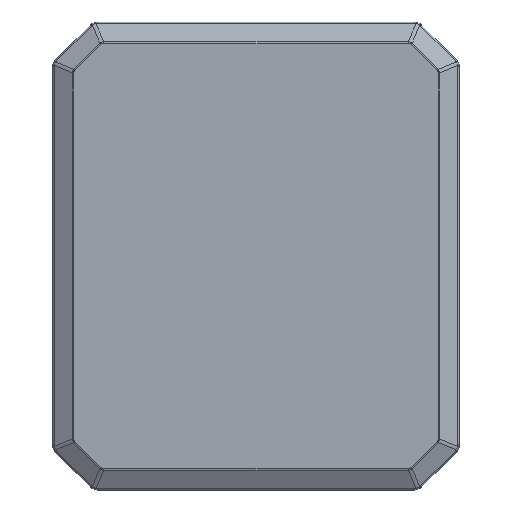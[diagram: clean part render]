
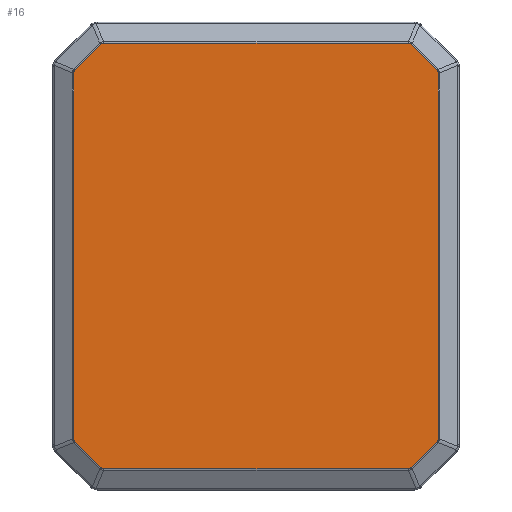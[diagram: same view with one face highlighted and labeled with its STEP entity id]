
A CAD part, top view. The second image highlights one B-rep face of the part: STEP entity #16.
In plain terms, the highlighted planar face has unit normal (0, 0, 1).
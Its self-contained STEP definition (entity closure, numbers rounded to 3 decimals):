
#16=ADVANCED_FACE('',(#176),#2308,.T.);
#176=FACE_OUTER_BOUND('',#336,.T.);
#336=EDGE_LOOP('',(#510,#511,#512,#513,#514,#515,#516,#517,#518,#519,#520,
#521,#522,#523,#524,#525));
#510=ORIENTED_EDGE('',*,*,#1277,.T.);
#511=ORIENTED_EDGE('',*,*,#1272,.F.);
#512=ORIENTED_EDGE('',*,*,#1275,.T.);
#513=ORIENTED_EDGE('',*,*,#1252,.F.);
#514=ORIENTED_EDGE('',*,*,#1310,.T.);
#515=ORIENTED_EDGE('',*,*,#1303,.F.);
#516=ORIENTED_EDGE('',*,*,#1307,.T.);
#517=ORIENTED_EDGE('',*,*,#1251,.F.);
#518=ORIENTED_EDGE('',*,*,#1298,.T.);
#519=ORIENTED_EDGE('',*,*,#1293,.F.);
#520=ORIENTED_EDGE('',*,*,#1296,.T.);
#521=ORIENTED_EDGE('',*,*,#1253,.F.);
#522=ORIENTED_EDGE('',*,*,#1288,.T.);
#523=ORIENTED_EDGE('',*,*,#1282,.F.);
#524=ORIENTED_EDGE('',*,*,#1286,.T.);
#525=ORIENTED_EDGE('',*,*,#1250,.F.);
#1250=EDGE_CURVE('',#2006,#2007,#1942,.T.);
#1251=EDGE_CURVE('',#2013,#2016,#1943,.T.);
#1252=EDGE_CURVE('',#2021,#2019,#1944,.T.);
#1253=EDGE_CURVE('',#2020,#2011,#1945,.T.);
#1272=EDGE_CURVE('',#2014,#2015,#1646,.T.);
#1275=EDGE_CURVE('',#2014,#2019,#1649,.T.);
#1277=EDGE_CURVE('',#2006,#2015,#1651,.T.);
#1282=EDGE_CURVE('',#2008,#2009,#1656,.T.);
#1286=EDGE_CURVE('',#2008,#2007,#1660,.T.);
#1288=EDGE_CURVE('',#2020,#2009,#1662,.T.);
#1293=EDGE_CURVE('',#2010,#2012,#1667,.T.);
#1296=EDGE_CURVE('',#2010,#2011,#1670,.T.);
#1298=EDGE_CURVE('',#2013,#2012,#1672,.T.);
#1303=EDGE_CURVE('',#2017,#2018,#1677,.T.);
#1307=EDGE_CURVE('',#2017,#2016,#1681,.T.);
#1310=EDGE_CURVE('',#2021,#2018,#1684,.T.);
#1646=(
BOUNDED_CURVE()
B_SPLINE_CURVE(1,(#3893,#3894),.UNSPECIFIED.,.F.,.F.)
B_SPLINE_CURVE_WITH_KNOTS((2,2),(-0.03,3.603),
 .UNSPECIFIED.)
CURVE()
GEOMETRIC_REPRESENTATION_ITEM()
RATIONAL_B_SPLINE_CURVE((1.,1.))
REPRESENTATION_ITEM('')
);
#1649=(
BOUNDED_CURVE()
B_SPLINE_CURVE(3,(#3900,#3901,#3902,#3903),.UNSPECIFIED.,.F.,.F.)
B_SPLINE_CURVE_WITH_KNOTS((4,4),(0.03,0.313),
 .UNSPECIFIED.)
CURVE()
GEOMETRIC_REPRESENTATION_ITEM()
RATIONAL_B_SPLINE_CURVE((1.,1.,1.,1.))
REPRESENTATION_ITEM('')
);
#1651=(
BOUNDED_CURVE()
B_SPLINE_CURVE(3,(#3908,#3909,#3910,#3911),.UNSPECIFIED.,.F.,.F.)
B_SPLINE_CURVE_WITH_KNOTS((4,4),(0.03,0.313),
 .UNSPECIFIED.)
CURVE()
GEOMETRIC_REPRESENTATION_ITEM()
RATIONAL_B_SPLINE_CURVE((1.,1.,1.,1.))
REPRESENTATION_ITEM('')
);
#1656=(
BOUNDED_CURVE()
B_SPLINE_CURVE(1,(#3924,#3925),.UNSPECIFIED.,.F.,.F.)
B_SPLINE_CURVE_WITH_KNOTS((2,2),(-0.03,3.603),
 .UNSPECIFIED.)
CURVE()
GEOMETRIC_REPRESENTATION_ITEM()
RATIONAL_B_SPLINE_CURVE((1.,1.))
REPRESENTATION_ITEM('')
);
#1660=(
BOUNDED_CURVE()
B_SPLINE_CURVE(3,(#3934,#3935,#3936,#3937),.UNSPECIFIED.,.F.,.F.)
B_SPLINE_CURVE_WITH_KNOTS((4,4),(0.03,0.313),
 .UNSPECIFIED.)
CURVE()
GEOMETRIC_REPRESENTATION_ITEM()
RATIONAL_B_SPLINE_CURVE((1.,1.,1.,1.))
REPRESENTATION_ITEM('')
);
#1662=(
BOUNDED_CURVE()
B_SPLINE_CURVE(3,(#3942,#3943,#3944,#3945),.UNSPECIFIED.,.F.,.F.)
B_SPLINE_CURVE_WITH_KNOTS((4,4),(0.03,0.313),
 .UNSPECIFIED.)
CURVE()
GEOMETRIC_REPRESENTATION_ITEM()
RATIONAL_B_SPLINE_CURVE((1.,1.,1.,1.))
REPRESENTATION_ITEM('')
);
#1667=(
BOUNDED_CURVE()
B_SPLINE_CURVE(1,(#3958,#3959),.UNSPECIFIED.,.F.,.F.)
B_SPLINE_CURVE_WITH_KNOTS((2,2),(-0.03,3.603),
 .UNSPECIFIED.)
CURVE()
GEOMETRIC_REPRESENTATION_ITEM()
RATIONAL_B_SPLINE_CURVE((1.,1.))
REPRESENTATION_ITEM('')
);
#1670=(
BOUNDED_CURVE()
B_SPLINE_CURVE(3,(#3965,#3966,#3967,#3968),.UNSPECIFIED.,.F.,.F.)
B_SPLINE_CURVE_WITH_KNOTS((4,4),(0.03,0.313),
 .UNSPECIFIED.)
CURVE()
GEOMETRIC_REPRESENTATION_ITEM()
RATIONAL_B_SPLINE_CURVE((1.,1.,1.,1.))
REPRESENTATION_ITEM('')
);
#1672=(
BOUNDED_CURVE()
B_SPLINE_CURVE(3,(#3973,#3974,#3975,#3976),.UNSPECIFIED.,.F.,.F.)
B_SPLINE_CURVE_WITH_KNOTS((4,4),(0.03,0.313),
 .UNSPECIFIED.)
CURVE()
GEOMETRIC_REPRESENTATION_ITEM()
RATIONAL_B_SPLINE_CURVE((1.,1.,1.,1.))
REPRESENTATION_ITEM('')
);
#1677=(
BOUNDED_CURVE()
B_SPLINE_CURVE(1,(#3989,#3990),.UNSPECIFIED.,.F.,.F.)
B_SPLINE_CURVE_WITH_KNOTS((2,2),(-0.03,3.603),
 .UNSPECIFIED.)
CURVE()
GEOMETRIC_REPRESENTATION_ITEM()
RATIONAL_B_SPLINE_CURVE((1.,1.))
REPRESENTATION_ITEM('')
);
#1681=(
BOUNDED_CURVE()
B_SPLINE_CURVE(3,(#3999,#4000,#4001,#4002),.UNSPECIFIED.,.F.,.F.)
B_SPLINE_CURVE_WITH_KNOTS((4,4),(0.03,0.313),
 .UNSPECIFIED.)
CURVE()
GEOMETRIC_REPRESENTATION_ITEM()
RATIONAL_B_SPLINE_CURVE((1.,1.,1.,1.))
REPRESENTATION_ITEM('')
);
#1684=(
BOUNDED_CURVE()
B_SPLINE_CURVE(3,(#4010,#4011,#4012,#4013),.UNSPECIFIED.,.F.,.F.)
B_SPLINE_CURVE_WITH_KNOTS((4,4),(0.03,0.313),
 .UNSPECIFIED.)
CURVE()
GEOMETRIC_REPRESENTATION_ITEM()
RATIONAL_B_SPLINE_CURVE((1.,1.,1.,1.))
REPRESENTATION_ITEM('')
);
#1942=B_SPLINE_CURVE_WITH_KNOTS('',1,(#3846,#3847),.UNSPECIFIED.,.F.,.F.,
(2,2),(-0.03,29.946),.UNSPECIFIED.);
#1943=B_SPLINE_CURVE_WITH_KNOTS('',1,(#3848,#3849),.UNSPECIFIED.,.F.,.F.,
(2,2),(-0.03,29.946),.UNSPECIFIED.);
#1944=B_SPLINE_CURVE_WITH_KNOTS('',1,(#3850,#3851),.UNSPECIFIED.,.F.,.F.,
(2,2),(-0.03,35.946),.UNSPECIFIED.);
#1945=B_SPLINE_CURVE_WITH_KNOTS('',1,(#3852,#3853),.UNSPECIFIED.,.F.,.F.,
(2,2),(-0.03,35.946),.UNSPECIFIED.);
#2006=VERTEX_POINT('',#3626);
#2007=VERTEX_POINT('',#3627);
#2008=VERTEX_POINT('',#3628);
#2009=VERTEX_POINT('',#3629);
#2010=VERTEX_POINT('',#3630);
#2011=VERTEX_POINT('',#3631);
#2012=VERTEX_POINT('',#3632);
#2013=VERTEX_POINT('',#3633);
#2014=VERTEX_POINT('',#3634);
#2015=VERTEX_POINT('',#3635);
#2016=VERTEX_POINT('',#3636);
#2017=VERTEX_POINT('',#3637);
#2018=VERTEX_POINT('',#3638);
#2019=VERTEX_POINT('',#3639);
#2020=VERTEX_POINT('',#3640);
#2021=VERTEX_POINT('',#3641);
#2308=PLANE('',#2476);
#2476=AXIS2_PLACEMENT_3D('',#2638,#2557,$);
#2557=DIRECTION('',(0.,0.,1.));
#2638=CARTESIAN_POINT('',(167.369,-544.196,8.329));
#3626=CARTESIAN_POINT('',(157.357,-536.363,8.329));
#3627=CARTESIAN_POINT('',(127.381,-536.363,8.329));
#3628=CARTESIAN_POINT('',(127.127,-536.258,8.329));
#3629=CARTESIAN_POINT('',(124.558,-533.689,8.329));
#3630=CARTESIAN_POINT('',(124.558,-497.204,8.329));
#3631=CARTESIAN_POINT('',(124.452,-497.459,8.329));
#3632=CARTESIAN_POINT('',(127.127,-494.635,8.329));
#3633=CARTESIAN_POINT('',(127.381,-494.53,8.329));
#3634=CARTESIAN_POINT('',(160.181,-533.689,8.329));
#3635=CARTESIAN_POINT('',(157.612,-536.258,8.329));
#3636=CARTESIAN_POINT('',(157.357,-494.53,8.329));
#3637=CARTESIAN_POINT('',(157.612,-494.635,8.329));
#3638=CARTESIAN_POINT('',(160.181,-497.204,8.329));
#3639=CARTESIAN_POINT('',(160.286,-533.434,8.329));
#3640=CARTESIAN_POINT('',(124.452,-533.434,8.329));
#3641=CARTESIAN_POINT('',(160.286,-497.459,8.329));
#3846=CARTESIAN_POINT('',(157.357,-536.363,8.329));
#3847=CARTESIAN_POINT('',(127.381,-536.363,8.329));
#3848=CARTESIAN_POINT('',(127.381,-494.53,8.329));
#3849=CARTESIAN_POINT('',(157.357,-494.53,8.329));
#3850=CARTESIAN_POINT('',(160.286,-497.459,8.329));
#3851=CARTESIAN_POINT('',(160.286,-533.434,8.329));
#3852=CARTESIAN_POINT('',(124.452,-533.434,8.329));
#3853=CARTESIAN_POINT('',(124.452,-497.459,8.329));
#3893=CARTESIAN_POINT('',(160.181,-533.689,8.329));
#3894=CARTESIAN_POINT('',(157.612,-536.258,8.329));
#3900=CARTESIAN_POINT('',(160.181,-533.689,8.329));
#3901=CARTESIAN_POINT('',(160.249,-533.623,8.329));
#3902=CARTESIAN_POINT('',(160.288,-533.529,8.329));
#3903=CARTESIAN_POINT('',(160.286,-533.434,8.329));
#3908=CARTESIAN_POINT('',(157.357,-536.363,8.329));
#3909=CARTESIAN_POINT('',(157.452,-536.365,8.329));
#3910=CARTESIAN_POINT('',(157.546,-536.326,8.329));
#3911=CARTESIAN_POINT('',(157.612,-536.258,8.329));
#3924=CARTESIAN_POINT('',(127.127,-536.258,8.329));
#3925=CARTESIAN_POINT('',(124.558,-533.689,8.329));
#3934=CARTESIAN_POINT('',(127.127,-536.258,8.329));
#3935=CARTESIAN_POINT('',(127.193,-536.326,8.329));
#3936=CARTESIAN_POINT('',(127.287,-536.365,8.329));
#3937=CARTESIAN_POINT('',(127.381,-536.363,8.329));
#3942=CARTESIAN_POINT('',(124.452,-533.434,8.329));
#3943=CARTESIAN_POINT('',(124.451,-533.529,8.329));
#3944=CARTESIAN_POINT('',(124.49,-533.623,8.329));
#3945=CARTESIAN_POINT('',(124.558,-533.689,8.329));
#3958=CARTESIAN_POINT('',(124.558,-497.204,8.329));
#3959=CARTESIAN_POINT('',(127.127,-494.635,8.329));
#3965=CARTESIAN_POINT('',(124.558,-497.204,8.329));
#3966=CARTESIAN_POINT('',(124.49,-497.27,8.329));
#3967=CARTESIAN_POINT('',(124.451,-497.364,8.329));
#3968=CARTESIAN_POINT('',(124.452,-497.459,8.329));
#3973=CARTESIAN_POINT('',(127.381,-494.53,8.329));
#3974=CARTESIAN_POINT('',(127.287,-494.528,8.329));
#3975=CARTESIAN_POINT('',(127.193,-494.567,8.329));
#3976=CARTESIAN_POINT('',(127.127,-494.635,8.329));
#3989=CARTESIAN_POINT('',(157.612,-494.635,8.329));
#3990=CARTESIAN_POINT('',(160.181,-497.204,8.329));
#3999=CARTESIAN_POINT('',(157.612,-494.635,8.329));
#4000=CARTESIAN_POINT('',(157.546,-494.567,8.329));
#4001=CARTESIAN_POINT('',(157.452,-494.528,8.329));
#4002=CARTESIAN_POINT('',(157.357,-494.53,8.329));
#4010=CARTESIAN_POINT('',(160.286,-497.459,8.329));
#4011=CARTESIAN_POINT('',(160.288,-497.364,8.329));
#4012=CARTESIAN_POINT('',(160.249,-497.27,8.329));
#4013=CARTESIAN_POINT('',(160.181,-497.204,8.329));
